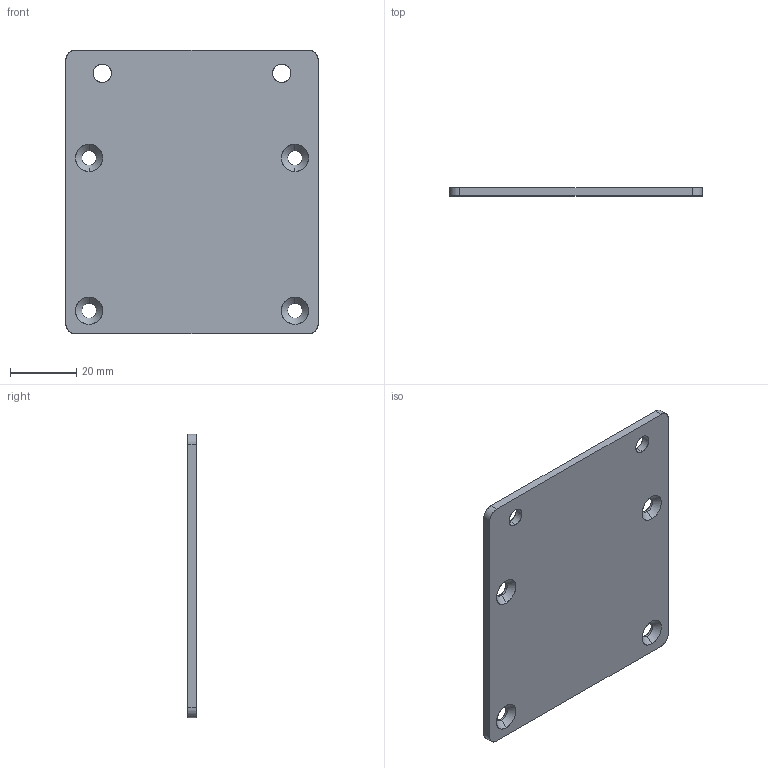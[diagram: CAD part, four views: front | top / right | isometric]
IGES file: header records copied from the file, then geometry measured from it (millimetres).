
Start section: SolidWorks IGES file using analytic representation for surfaces
Bounding box: 76 x 2.5 x 85.5 mm (x, y, z)
Surface area: 13737.2 mm2 (no closed solid volume)
Topology: 0 solids, 0 shells, 30 faces, 568 edges, 568 vertices
Faces by surface type: revolution 24, bspline 6
